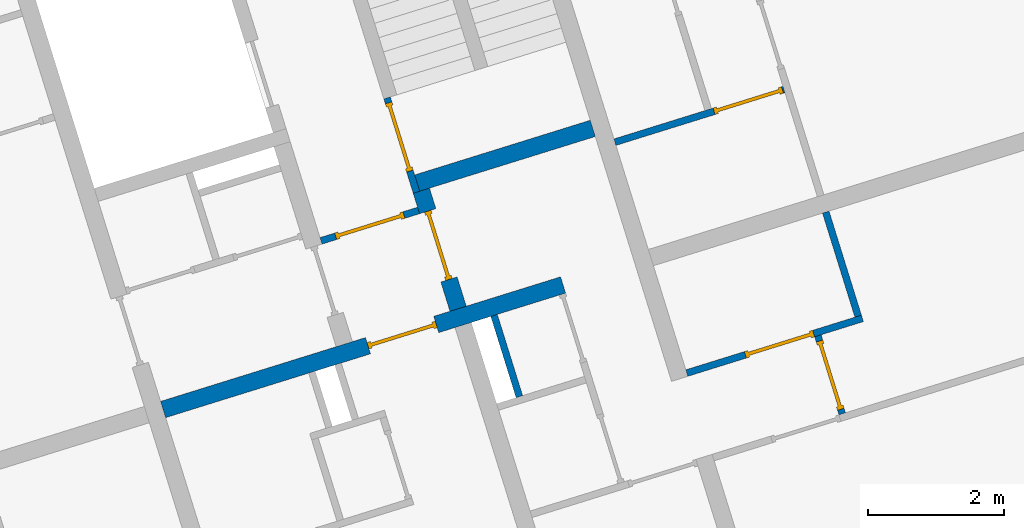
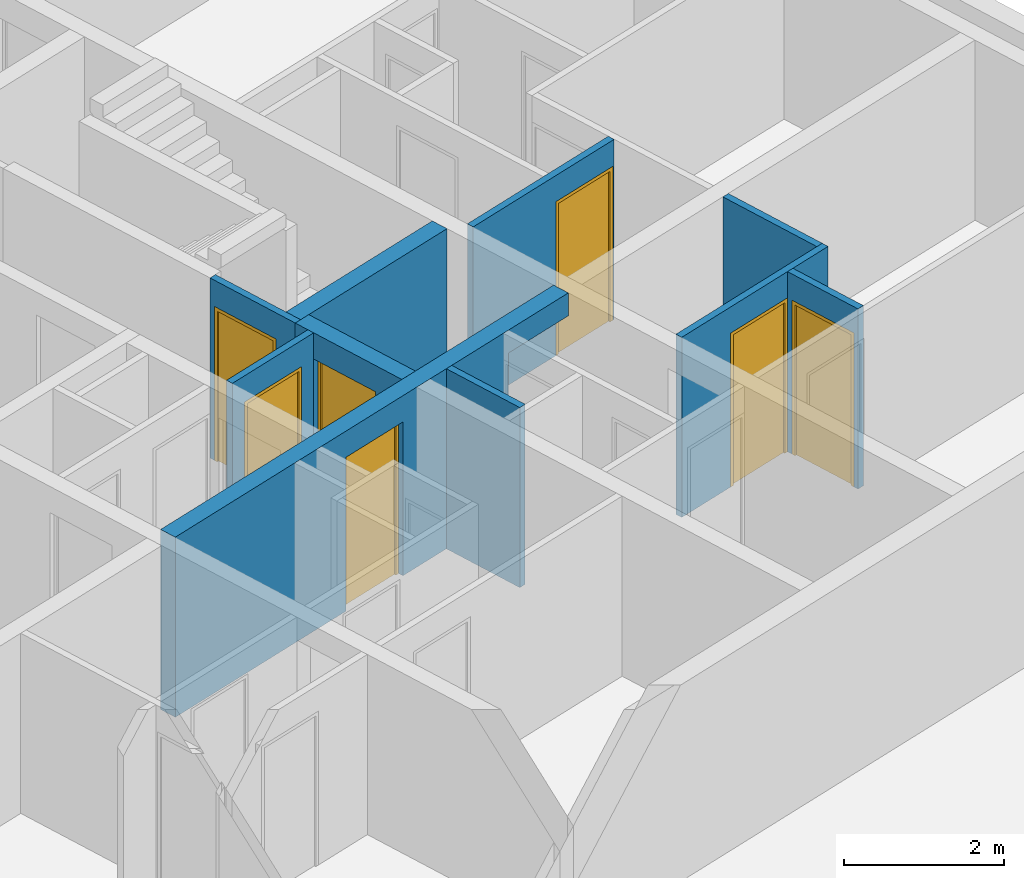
# One storey, part 3 of 9: 10 walls, 7 doors, 9 openings.
"""IFC4 building model written with IfcOpenShell, lengths in metres."""

from ifc_helpers import new_model, entity, si_unit, converted_unit, direction, frame, origin, place, context, subcontext, project, spatial, indexed_curve, outline, extrude, polygons, source, transform, mapped, material, constituent, constituent_set, type_object, type_shapes, element, fill, save


model = new_model("IFC4")

# Units and contexts
model_context = context("Model", 3, precision=1e-05, world=origin(), true_north=direction((6.12323399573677e-17, 1.0)))
body_context = subcontext(model_context, "Body", "Model", "MODEL_VIEW")
ifc_project = project(units=[si_unit("LENGTHUNIT", "METRE"), si_unit("AREAUNIT", "SQUARE_METRE"), si_unit("VOLUMEUNIT", "CUBIC_METRE"), converted_unit("PLANEANGLEUNIT", "DEGREE", entity("IfcPlaneAngleMeasure", 0.0174532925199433), si_unit("PLANEANGLEUNIT", "RADIAN"), dimensions=[0, 0, 0, 0, 0, 0, 0])], contexts=[model_context])

# Site, building, storey
site_placement = place(None, frame((13.1347999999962, 11.9886000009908, 0.0), z_axis=(0.0, 0.0, 1.0), x_axis=(0.954770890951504, 0.297342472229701, 0.0)))
site = spatial("IfcSite", under=ifc_project, at=site_placement, Name="Schiehaven", CompositionType="ELEMENT")
building_placement = place(site_placement, origin())
building = spatial("IfcBuilding", under=site, at=building_placement, Name="VORM huis", CompositionType="ELEMENT")
storey_placement = place(building_placement, frame((0.0, 0.0, 6.9)))
storey = spatial("IfcBuildingStorey", under=building, at=storey_placement, Name="02 tweede verdieping", CompositionType="ELEMENT", Elevation=6.9)

# Wall, openings, door
ifc_material_1 = material(Name="beton_gewapend_ihw", Category="Miscellaneous")
wall_type_1 = type_object("IfcWallType", Name="Basic Wall:28_WA_skelet_wand 250mm_gen", PredefinedType="STANDARD")
wall_1_placement = place(storey_placement, frame((19.8750000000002, 11.8999999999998, 0.0), z_axis=(0.0, 0.0, 1.0), x_axis=(-1.0, 0.0, 0.0)))
wall_1 = element("IfcWall", 1, at=wall_1_placement, inside=storey, type_object=wall_type_1, material=ifc_material_1, Name="Constructieve wand", ObjectType="Wand", PredefinedType="NOTDEFINED", context=body_context, shape_type="Tessellation", body=[
    polygons([(4.09999999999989, -0.124999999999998, 2.34999999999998), (4.09999999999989, -0.124999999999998, 1.08286712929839e-15), (7.24999999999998, -0.124999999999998, 1.08286712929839e-15), (7.24999999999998, -0.124999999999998, 2.75), (3.21810276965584e-15, -0.125, 2.75), (3.21810276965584e-15, -0.125, 2.4), (1.10000000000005, -0.125, 2.4), (1.10000000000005, -0.125, 1.08286712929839e-15), (3.0499999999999, -0.125, 1.08286712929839e-15), (3.0499999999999, -0.125, 2.34999999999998), (7.24999999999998, 0.125000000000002, 1.08286712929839e-15), (4.0999999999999, 0.125000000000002, 1.08286712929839e-15), (4.0999999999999, 0.125000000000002, 2.34999999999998), (3.0499999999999, 0.125, 2.34999999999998), (3.0499999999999, 0.125, 1.08286712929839e-15), (1.10000000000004, 0.125, 1.08286712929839e-15), (1.10000000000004, 0.125, 2.4), (4.15076800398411e-15, 0.125, 2.4), (8.48223652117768e-15, 0.125, 2.75), (7.24999999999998, 0.125000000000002, 2.75)], [[[1, 2, 3, 4, 5, 6, 7, 8, 9, 10]], [[11, 12, 13, 14, 15, 16, 17, 18, 19, 20]], [[9, 8, 16, 15]], [[5, 4, 20, 19]], [[5, 19, 18, 6]], [[15, 14, 10, 9]], [[13, 12, 2, 1]], [[14, 13, 1, 10]], [[17, 7, 6, 18]], [[7, 17, 16, 8]], [[4, 3, 11, 20]], [[3, 2, 12, 11]]], closed=True),
])
opening_1_placement = place(wall_1_placement, origin())
element("IfcOpeningElement", 2, at=opening_1_placement, cuts=wall_1, Name="Constructieve wand", PredefinedType="OPENING", context=body_context, shape_type="SweptSolid", body=[
    extrude(outline(indexed_curve([(-1.2, -0.550000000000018), (1.2, -0.550000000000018), (1.2, 0.550000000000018), (-1.2, 0.550000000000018), (-1.2, -0.550000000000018)], self_intersect=False)), frame((0.55000000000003, -0.125, 1.2), z_axis=(0.0, 1.0, 0.0), x_axis=(0.0, 0.0, -1.0)), (0.0, 0.0, 1.0), 0.249999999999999),
])
opening_2_placement = place(wall_1_placement, frame((4.09999999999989, 0.124999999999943, 0.0)))
opening_2 = element("IfcOpeningElement", 3, at=opening_2_placement, cuts=wall_1, Name="Woningtoegangsdeur", PredefinedType="OPENING", context=body_context, shape_type="SweptSolid", body=[
    extrude(outline(indexed_curve([(2.34999999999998, 1.05), (0.0, 1.05), (0.0, 1.08286712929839e-15), (2.34999999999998, 1.08286712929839e-15), (2.34999999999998, 1.05)], self_intersect=False)), frame((0.0, 0.0, 0.0), z_axis=(0.0, -1.0, 0.0), x_axis=(0.0, 0.0, 1.0)), (0.0, 0.0, 1.0), 0.25),
])
ifc_material_2 = material(Name="PD_a_binnenwandopeningen", Category="Miscellaneous")
ifc_constituent_1 = constituent(ifc_material_2, Name="PD_a_binnenwandopeningen", Category="Miscellaneous")
ifc_material_3 = material(Name="metaal_aluminium_ntb", Category="Miscellaneous")
ifc_constituent_2 = constituent(ifc_material_3, Name="metaal_aluminium_ntb", Category="Miscellaneous")
ifc_constituent_set_1 = constituent_set(constituents=[ifc_constituent_1, ifc_constituent_2])
door_type_1 = type_object("IfcDoorType", Name="32_DO_binnendeur enkel:woningtoegangsdeur", OperationType="REVOLVING", PredefinedType="DOOR")
shared_shape_1 = source(origin(), body_context, "Body", "SweptSolid", [
    extrude(outline(indexed_curve([(-1.16249999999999, -0.525000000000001), (1.18749999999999, -0.525), (1.18749999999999, 0.525000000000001), (-1.16249999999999, 0.525000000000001), (-1.16249999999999, 0.475), (1.13749999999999, 0.475), (1.13749999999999, -0.475), (-1.16249999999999, -0.475), (-1.16249999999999, -0.525000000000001)], self_intersect=False)), frame((0.525000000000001, 0.0749999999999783, 1.16249999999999), z_axis=(0.0, 1.0, 0.0), x_axis=(0.0, 0.0, 1.0)), (0.0, 0.0, 1.0), 0.1),
    extrude(outline(indexed_curve([(-0.025, -0.475), (0.025, -0.475), (0.025, 0.475), (-0.025, 0.475), (-0.025, -0.475)], self_intersect=False)), frame((0.525000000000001, 0.12499999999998, 0.0), z_axis=(0.0, 0.0, 1.0), x_axis=(0.0, 1.0, 0.0)), (0.0, 0.0, 1.0), 2.29999999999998),
])
door_1_placement = place(opening_2_placement, frame((0.0, 0.0, 0.0), z_axis=(0.0, 0.0, 1.0), x_axis=(-1.0, 0.0, 0.0)))
door_1 = element("IfcDoor", 4, at=door_1_placement, inside=storey, type_object=door_type_1, material=ifc_constituent_set_1, Name="Woningtoegangsdeur", ObjectType="Deur", OperationType="REVOLVING", OverallHeight=2.34999999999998, OverallWidth=1.05, PredefinedType="DOOR", context=body_context, shape_type="MappedRepresentation", body=[
    mapped(shared_shape_1, transform((0.0, 0.0, 0.0), scale=1.0)),
])
fill(opening_2, door_1)

# Wall, opening, door
ifc_material_4 = material(Name="ntb_ntb_ntb", Category="Miscellaneous")
wall_type_2 = type_object("IfcWallType", Name="Basic Wall:22_WA_afbouw_binnenwand 250mm_gen", PredefinedType="STANDARD")
wall_2_placement = place(storey_placement, frame((17.2000000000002, 13.8399999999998, 0.0), z_axis=(0.0, 0.0, 1.0), x_axis=(0.0, -1.0, 0.0)))
wall_2 = element("IfcWall", 5, at=wall_2_placement, inside=storey, type_object=wall_type_2, material=ifc_material_4, Name="Binnenwand", ObjectType="Wand", PredefinedType="NOTDEFINED", context=body_context, shape_type="Tessellation", body=[
    polygons([(-4.33146851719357e-15, -0.124999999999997, 1.08286712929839e-15), (0.215000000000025, -0.125, 0.0), (0.315000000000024, -0.124999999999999, 1.08286712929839e-15), (0.315000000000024, -0.124999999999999, 2.34999999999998), (1.36500000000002, -0.125, 2.34999999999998), (1.36500000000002, -0.125, 1.08286712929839e-15), (1.81499999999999, -0.125, 1.08286712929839e-15), (1.81499999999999, -0.125, 2.75), (0.315000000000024, -0.124999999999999, 2.75), (0.215000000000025, -0.125, 2.75), (-4.33146851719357e-15, -0.124999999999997, 2.75), (0.315000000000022, 0.125000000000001, 2.34999999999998), (0.315000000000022, 0.125000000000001, 1.08286712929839e-15), (0.0, 0.125, 1.08286712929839e-15), (0.0, 0.125, 2.75), (1.81499999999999, 0.124999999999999, 2.75), (1.81499999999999, 0.124999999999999, 1.08286712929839e-15), (1.36500000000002, 0.124999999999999, 1.08286712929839e-15), (1.36500000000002, 0.124999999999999, 2.34999999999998), (0.0, -0.0250000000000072, 0.0), (0.0, -0.0250000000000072, 2.75)], [[[1, 2, 3, 4, 5, 6, 7, 8, 9, 10, 11]], [[12, 13, 14, 15, 16, 17, 18, 19]], [[14, 13, 3, 2, 1, 20]], [[8, 7, 17, 16]], [[11, 10, 9, 8, 16, 15, 21]], [[6, 5, 19, 18]], [[4, 3, 13, 12]], [[5, 4, 12, 19]], [[1, 11, 21, 15, 14, 20]], [[18, 17, 7, 6]]], closed=True),
])
opening_3_placement = place(wall_2_placement, frame((1.36500000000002, 0.124999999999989, 0.0)))
opening_3 = element("IfcOpeningElement", 6, at=opening_3_placement, cuts=wall_2, Name="Woningtoegangsdeur", PredefinedType="OPENING", context=body_context, shape_type="SweptSolid", body=[
    extrude(outline(indexed_curve([(2.34999999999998, 1.35358391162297e-15), (2.34999999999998, 1.05), (0.0, 1.05), (0.0, 1.35358391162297e-15), (2.34999999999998, 1.35358391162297e-15)], self_intersect=False)), frame((0.0, 0.0, 0.0), z_axis=(0.0, -1.0, 0.0), x_axis=(0.0, 0.0, 1.0)), (0.0, 0.0, 1.0), 0.25),
])
ifc_constituent_3 = constituent(ifc_material_2, Name="PD_a_binnenwandopeningen", Category="Miscellaneous")
ifc_constituent_4 = constituent(ifc_material_3, Name="metaal_aluminium_ntb", Category="Miscellaneous")
ifc_constituent_set_2 = constituent_set(constituents=[ifc_constituent_3, ifc_constituent_4])
shared_shape_2 = source(origin(), body_context, "Body", "SweptSolid", [
    extrude(outline(indexed_curve([(0.475, -1.16249999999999), (0.525000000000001, -1.16249999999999), (0.525000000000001, 1.18749999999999), (-0.525000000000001, 1.18749999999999), (-0.525000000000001, -1.16249999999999), (-0.475, -1.16249999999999), (-0.475, 1.13749999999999), (0.475, 1.13749999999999), (0.475, -1.16249999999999)], self_intersect=False)), frame((0.525000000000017, 0.174999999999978, 1.16249999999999), z_axis=(0.0, -1.0, 0.0), x_axis=(1.0, 0.0, 0.0)), (0.0, 0.0, 1.0), 0.1),
    extrude(outline(indexed_curve([(-0.475, -0.025), (0.475, -0.025), (0.475, 0.025), (-0.475, 0.025), (-0.475, -0.025)], self_intersect=False)), frame((0.525000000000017, 0.12499999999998, 0.0)), (0.0, 0.0, 1.0), 2.29999999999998),
])
door_2_placement = place(opening_3_placement, frame((0.0, 0.0, 0.0), z_axis=(0.0, 0.0, 1.0), x_axis=(-1.0, 0.0, 0.0)))
door_2 = element("IfcDoor", 7, at=door_2_placement, inside=storey, type_object=door_type_1, material=ifc_constituent_set_2, Name="Woningtoegangsdeur", ObjectType="Deur", OperationType="REVOLVING", OverallHeight=2.34999999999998, OverallWidth=1.05, PredefinedType="DOOR", context=body_context, shape_type="MappedRepresentation", body=[
    mapped(shared_shape_2, transform((0.0, 0.0, 0.0), scale=1.0)),
])
fill(opening_3, door_2)

# Wall
wall_3_placement = place(storey_placement, frame((19.8750000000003, 13.9649999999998, 0.0), z_axis=(0.0, 0.0, 1.0), x_axis=(-1.0, 0.0, 0.0)))
element("IfcWall", 8, at=wall_3_placement, inside=storey, type_object=wall_type_2, material=ifc_material_4, Name="Binnenwand", ObjectType="Wand", PredefinedType="NOTDEFINED", context=body_context, shape_type="SweptSolid", body=[
    extrude(outline(indexed_curve([(2.70000000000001, 0.124999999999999), (2.34490905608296e-15, 0.125), (1.98655946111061e-15, -0.125), (2.70000000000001, -0.125), (2.70000000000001, 0.124999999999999)], self_intersect=False)), origin(), (0.0, 0.0, 1.0), 2.75),
])

# Wall, opening, door
wall_type_3 = type_object("IfcWallType", Name="Basic Wall:22_WA_afbouw_binnenwand 100mm_gen", PredefinedType="STANDARD")
wall_4_placement = place(storey_placement, frame((17.1250000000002, 13.8399999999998, 0.0), z_axis=(0.0, 0.0, 1.0), x_axis=(0.0, 1.0, 0.0)))
wall_4 = element("IfcWall", 9, at=wall_4_placement, inside=storey, type_object=wall_type_3, material=ifc_material_4, Name="Binnenwand", ObjectType="Wand", PredefinedType="NOTDEFINED", context=body_context, shape_type="Tessellation", body=[
    polygons([(1.44999999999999, -0.0499999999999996, 1.08286712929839e-15), (1.44999999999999, -0.0499999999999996, 2.75), (0.249999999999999, -0.0500000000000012, 2.75), (2.16573425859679e-15, -0.0500000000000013, 2.75), (2.16573425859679e-15, -0.0500000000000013, 1.08286712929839e-15), (0.249999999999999, -0.0500000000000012, 0.0), (0.324999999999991, -0.0499999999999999, 1.08286712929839e-15), (0.324999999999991, -0.0499999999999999, 2.34999999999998), (1.37499999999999, -0.050000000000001, 2.34999999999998), (1.37499999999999, -0.050000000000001, 1.08286712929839e-15), (1.44999999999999, 0.0500000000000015, 2.75), (1.44999999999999, 0.0500000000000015, 1.08286712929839e-15), (1.37499999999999, 0.0500000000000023, 1.08286712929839e-15), (1.37499999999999, 0.0500000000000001, 2.34999999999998), (0.324999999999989, 0.0500000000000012, 2.34999999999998), (0.324999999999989, 0.0500000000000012, 1.08286712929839e-15), (0.0, 0.050000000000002, 1.08286712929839e-15), (0.0, 0.050000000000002, 2.75)], [[[1, 2, 3, 4, 5, 6, 7, 8, 9, 10]], [[11, 12, 13, 14, 15, 16, 17, 18]], [[5, 17, 16, 7, 6]], [[2, 1, 12, 11]], [[4, 3, 2, 11, 18]], [[15, 8, 7, 16]], [[9, 14, 13, 10]], [[8, 15, 14, 9]], [[5, 4, 18, 17]], [[12, 1, 10, 13]]], closed=True),
])
opening_4_placement = place(wall_4_placement, frame((1.37499999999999, 0.0499999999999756, 0.0)))
opening_4 = element("IfcOpeningElement", 10, at=opening_4_placement, cuts=wall_4, Name="Vluchtdeur", PredefinedType="OPENING", context=body_context, shape_type="SweptSolid", body=[
    extrude(outline(indexed_curve([(2.34999999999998, 1.05), (0.0, 1.05), (0.0, 1.35358391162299e-15), (2.34999999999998, 1.35358391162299e-15), (2.34999999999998, 1.05)], self_intersect=False)), frame((0.0, 0.0, 0.0), z_axis=(0.0, -1.0, 0.0), x_axis=(0.0, 0.0, 1.0)), (0.0, 0.0, 1.0), 0.1),
])
ifc_constituent_5 = constituent(ifc_material_2, Name="PD_a_binnenwandopeningen", Category="Miscellaneous")
ifc_constituent_6 = constituent(ifc_material_3, Name="metaal_aluminium_ntb", Category="Miscellaneous")
ifc_constituent_set_3 = constituent_set(constituents=[ifc_constituent_5, ifc_constituent_6])
door_type_2 = type_object("IfcDoorType", Name="32_DO_binnendeur enkel:binnendeur zelfsluitend 30min", OperationType="NOTDEFINED", PredefinedType="DOOR")
shared_shape_3 = source(origin(), body_context, "Body", "SweptSolid", [
    extrude(outline(indexed_curve([(-1.16249999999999, -0.525000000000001), (1.18749999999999, -0.525), (1.18749999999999, 0.525), (-1.16249999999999, 0.525), (-1.16249999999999, 0.475), (1.13749999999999, 0.475), (1.13749999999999, -0.475), (-1.16249999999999, -0.475), (-1.16249999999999, -0.525000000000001)], self_intersect=False)), frame((0.525000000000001, 0.0, 1.16249999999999), z_axis=(0.0, 1.0, 0.0), x_axis=(0.0, 0.0, 1.0)), (0.0, 0.0, 1.0), 0.1),
    extrude(outline(indexed_curve([(-0.025, -0.475), (0.025, -0.475), (0.025, 0.475), (-0.025, 0.475), (-0.025, -0.475)], self_intersect=False)), frame((0.525000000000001, 0.0499999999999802, 0.0), z_axis=(0.0, 0.0, 1.0), x_axis=(0.0, 1.0, 0.0)), (0.0, 0.0, 1.0), 2.29999999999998),
])
type_shapes(door_type_2, [shared_shape_3])
door_3_placement = place(opening_4_placement, frame((0.0, 0.0, 0.0), z_axis=(0.0, 0.0, 1.0), x_axis=(-1.0, 0.0, 0.0)))
door_3 = element("IfcDoor", 11, at=door_3_placement, inside=storey, type_object=door_type_2, material=ifc_constituent_set_3, Name="Vluchtdeur", ObjectType="Deur", OperationType="NOTDEFINED", OverallHeight=2.34999999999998, OverallWidth=1.05, PredefinedType="DOOR", context=body_context, shape_type="MappedRepresentation", body=[
    mapped(shared_shape_3, transform((0.0, 0.0, 0.0), scale=1.0)),
])
fill(opening_4, door_3)

wall_5_placement = place(storey_placement, frame((17.0750000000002, 13.5749999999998, 0.0), z_axis=(0.0, 0.0, 1.0), x_axis=(-1.0, 0.0, 0.0)))
wall_5 = element("IfcWall", 12, at=wall_5_placement, inside=storey, type_object=wall_type_3, material=ifc_material_4, Name="Binnenwand", ObjectType="Wand", PredefinedType="NOTDEFINED", context=body_context, shape_type="Tessellation", body=[
    polygons([(1.50000000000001, -0.0499999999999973, 2.75), (-5.48799231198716e-16, -0.0499999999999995, 2.75), (-5.48799231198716e-16, -0.0499999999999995, 1.08286712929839e-15), (0.225, -0.0499999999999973, 1.08286712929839e-15), (0.225000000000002, -0.0500000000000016, 2.34999999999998), (1.275, -0.0499999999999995, 2.34999999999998), (1.275, -0.0499999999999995, 1.08286712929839e-15), (1.50000000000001, -0.0499999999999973, 1.08286712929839e-15), (-4.9311163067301e-16, 0.0500000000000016, 2.75), (1.5, 0.0499999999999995, 2.75), (1.5, 0.0499999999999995, 2.34999999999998), (1.5, 0.0499999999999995, 1.08286712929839e-15), (1.275, 0.0499999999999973, 1.08286712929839e-15), (1.275, 0.0499999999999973, 2.34999999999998), (0.225, 0.0499999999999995, 2.34999999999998), (0.225, 0.0499999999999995, 1.08286712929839e-15), (-4.9311163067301e-16, 0.0500000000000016, 1.08286712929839e-15), (-4.93111630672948e-16, 0.0499999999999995, 2.34999999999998)], [[[1, 2, 3, 4, 5, 6, 7, 8]], [[9, 10, 11, 12, 13, 14, 15, 16, 17, 18]], [[3, 17, 16, 4]], [[2, 1, 10, 9]], [[15, 5, 4, 16]], [[5, 15, 14, 6]], [[6, 14, 13, 7]], [[3, 2, 9, 18, 17]], [[1, 8, 12, 11, 10]], [[12, 8, 7, 13]]], closed=True),
])
opening_5_placement = place(wall_5_placement, frame((1.275, 0.0499999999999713, 0.0)))
opening_5 = element("IfcOpeningElement", 13, at=opening_5_placement, cuts=wall_5, Name="Vluchtdeur", PredefinedType="OPENING", context=body_context, shape_type="SweptSolid", body=[
    extrude(outline(indexed_curve([(2.34999999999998, 1.35358391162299e-15), (2.34999999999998, 1.05), (0.0, 1.05), (0.0, 1.35358391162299e-15), (2.34999999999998, 1.35358391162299e-15)], self_intersect=False)), frame((0.0, 0.0, 0.0), z_axis=(0.0, -1.0, 0.0), x_axis=(0.0, 0.0, 1.0)), (0.0, 0.0, 1.0), 0.1),
])
ifc_constituent_7 = constituent(ifc_material_2, Name="PD_a_binnenwandopeningen", Category="Miscellaneous")
ifc_constituent_8 = constituent(ifc_material_3, Name="metaal_aluminium_ntb", Category="Miscellaneous")
ifc_constituent_set_4 = constituent_set(constituents=[ifc_constituent_7, ifc_constituent_8])
shared_shape_4 = source(origin(), body_context, "Body", "SweptSolid", [
    extrude(outline(indexed_curve([(0.475, -1.16249999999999), (0.525, -1.16249999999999), (0.525, 1.18749999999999), (-0.525, 1.18749999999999), (-0.525, -1.16249999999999), (-0.475, -1.16249999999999), (-0.475, 1.13749999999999), (0.475, 1.13749999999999), (0.475, -1.16249999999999)], self_intersect=False)), frame((0.525000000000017, 0.100000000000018, 1.16249999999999), z_axis=(0.0, -1.0, 0.0), x_axis=(1.0, 0.0, 0.0)), (0.0, 0.0, 1.0), 0.1),
    extrude(outline(indexed_curve([(-0.475, -0.025), (0.475, -0.025), (0.475, 0.025), (-0.475, 0.025), (-0.475, -0.025)], self_intersect=False)), frame((0.525000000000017, 0.0499999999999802, 0.0)), (0.0, 0.0, 1.0), 2.29999999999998),
])
door_4_placement = place(opening_5_placement, frame((0.0, 0.0, 0.0), z_axis=(0.0, 0.0, 1.0), x_axis=(-1.0, 0.0, 0.0)))
door_4 = element("IfcDoor", 14, at=door_4_placement, inside=storey, type_object=door_type_2, material=ifc_constituent_set_4, Name="Vluchtdeur", ObjectType="Deur", OperationType="NOTDEFINED", OverallHeight=2.34999999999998, OverallWidth=1.05, PredefinedType="DOOR", context=body_context, shape_type="MappedRepresentation", body=[
    mapped(shared_shape_4, transform((0.0, 0.0, 0.0), scale=1.0)),
])
fill(opening_5, door_4)

wall_6_placement = place(storey_placement, frame((22.8250000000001, 10.1249999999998, 0.0), z_axis=(0.0, 0.0, 1.0), x_axis=(-1.0, 0.0, 0.0)))
wall_6 = element("IfcWall", 15, at=wall_6_placement, inside=storey, type_object=wall_type_3, material=ifc_material_4, Name="Binnenwand", ObjectType="Wand", PredefinedType="NOTDEFINED", context=body_context, shape_type="Tessellation", body=[
    polygons([(4.28724628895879e-16, -0.0500000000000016, 1.08286712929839e-15), (0.0999999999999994, -0.0500000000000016, 0.0), (0.750000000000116, -0.0500000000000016, 1.08286712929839e-15), (0.750000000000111, -0.0500000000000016, 2.34999999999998), (1.80000000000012, -0.0500000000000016, 2.34999999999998), (1.80000000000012, -0.0500000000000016, 1.08286712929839e-15), (2.69999999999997, -0.0500000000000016, 1.08286712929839e-15), (2.69999999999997, -0.0500000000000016, 2.75), (0.0999999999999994, -0.0500000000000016, 2.75), (4.28724628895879e-16, -0.0500000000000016, 2.75), (0.750000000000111, 0.0499999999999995, 2.34999999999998), (0.750000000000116, 0.0499999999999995, 1.08286712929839e-15), (0.650000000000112, 0.0499999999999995, 0.0), (1.26523112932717e-16, 0.0499999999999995, 1.08286712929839e-15), (1.26523112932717e-16, 0.0499999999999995, 2.75), (0.650000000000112, 0.0499999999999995, 2.75), (0.750000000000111, 0.0499999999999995, 2.75), (2.69999999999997, 0.0499999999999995, 2.75), (2.69999999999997, 0.0499999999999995, 1.08286712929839e-15), (1.80000000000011, 0.0499999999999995, 1.08286712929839e-15), (1.80000000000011, 0.0499999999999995, 2.34999999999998)], [[[1, 2, 3, 4, 5, 6, 7, 8, 9, 10]], [[11, 12, 13, 14, 15, 16, 17, 18, 19, 20, 21]], [[14, 13, 12, 3, 2, 1]], [[8, 7, 19, 18]], [[10, 9, 8, 18, 17, 16, 15]], [[6, 5, 21, 20]], [[4, 3, 12, 11]], [[5, 4, 11, 21]], [[1, 10, 15, 14]], [[20, 19, 7, 6]]], closed=True),
])
opening_6_placement = place(wall_6_placement, frame((0.750000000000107, -0.0500000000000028, 0.0)))
opening_6 = element("IfcOpeningElement", 16, at=opening_6_placement, cuts=wall_6, Name="Binnendeur", PredefinedType="OPENING", context=body_context, shape_type="SweptSolid", body=[
    extrude(outline(indexed_curve([(2.34999999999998, 1.05), (0.0, 1.05), (0.0, -3.50253438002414e-30), (2.34999999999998, -3.50253438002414e-30), (2.34999999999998, 1.05)], self_intersect=False)), frame((0.0, 0.0, 0.0), z_axis=(0.0, 1.0, 0.0), x_axis=(0.0, 0.0, 1.0)), (0.0, 0.0, 1.0), 0.1),
])
ifc_constituent_9 = constituent(ifc_material_2, Name="PD_a_binnenwandopeningen", Category="Miscellaneous")
ifc_constituent_10 = constituent(ifc_material_3, Name="metaal_aluminium_ntb", Category="Miscellaneous")
ifc_constituent_set_5 = constituent_set(constituents=[ifc_constituent_9, ifc_constituent_10])
door_type_3 = type_object("IfcDoorType", Name="32_DO_binnendeur enkel:binnendeur", OperationType="REVOLVING", PredefinedType="DOOR")
shared_shape_5 = source(origin(), body_context, "Body", "SweptSolid", [
    extrude(outline(indexed_curve([(-1.16249999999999, -0.525000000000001), (1.18749999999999, -0.525), (1.18749999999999, 0.525), (-1.16249999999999, 0.525), (-1.16249999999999, 0.475), (1.13749999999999, 0.475), (1.13749999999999, -0.475), (-1.16249999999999, -0.475), (-1.16249999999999, -0.525000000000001)], self_intersect=False)), frame((0.525000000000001, 0.0, 1.16249999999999), z_axis=(0.0, 1.0, 0.0), x_axis=(0.0, 0.0, 1.0)), (0.0, 0.0, 1.0), 0.1),
    extrude(outline(indexed_curve([(-0.025, -0.475), (0.025, -0.475), (0.025, 0.475), (-0.025, 0.475), (-0.025, -0.475)], self_intersect=False)), frame((0.525000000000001, 0.0499999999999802, 0.0), z_axis=(0.0, 0.0, 1.0), x_axis=(0.0, 1.0, 0.0)), (0.0, 0.0, 1.0), 2.29999999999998),
])
type_shapes(door_type_3, [shared_shape_5])
door_5_placement = place(opening_6_placement, origin())
door_5 = element("IfcDoor", 17, at=door_5_placement, inside=storey, type_object=door_type_3, material=ifc_constituent_set_5, Name="Binnendeur", ObjectType="Deur", OperationType="REVOLVING", OverallHeight=2.34999999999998, OverallWidth=1.05, PredefinedType="DOOR", context=body_context, shape_type="MappedRepresentation", body=[
    mapped(shared_shape_5, transform((0.0, 0.0, 0.0), scale=1.0)),
])
fill(opening_6, door_5)

# Wall
wall_7_placement = place(storey_placement, frame((22.7750000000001, 10.1749999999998, 0.0), z_axis=(0.0, 0.0, 1.0), x_axis=(0.0, 1.0, 0.0)))
element("IfcWall", 18, at=wall_7_placement, inside=storey, type_object=wall_type_3, material=ifc_material_4, Name="Binnenwand", ObjectType="Wand", PredefinedType="NOTDEFINED", context=body_context, shape_type="SweptSolid", body=[
    extrude(outline(indexed_curve([(1.6000000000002, 0.0500000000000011), (-1.18119716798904e-16, 0.0500000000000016), (1.18119716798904e-16, -0.0500000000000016), (1.6000000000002, -0.0500000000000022), (1.6000000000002, 0.0500000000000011)], self_intersect=False)), origin(), (0.0, 0.0, 1.0), 2.75),
])

# Wall, openings, door
wall_8_placement = place(storey_placement, frame((22.125, 10.0749999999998, 0.0), z_axis=(0.0, 0.0, 1.0), x_axis=(0.0, -1.0, 0.0)))
wall_8 = element("IfcWall", 19, at=wall_8_placement, inside=storey, type_object=wall_type_3, material=ifc_material_4, Name="Binnenwand", ObjectType="Wand", PredefinedType="NOTDEFINED", context=body_context, shape_type="Tessellation", body=[
    polygons([(1.19999999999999, -0.0499999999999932, 2.75), (0.0, -0.0499999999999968, 2.75), (0.0, -0.0499999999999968, 2.34999999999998), (0.0, -0.0499999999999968, 1.08286712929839e-15), (0.0799999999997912, -0.049999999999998, 1.08286712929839e-15), (0.0799999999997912, -0.0499999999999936, 2.34999999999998), (1.12999999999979, -0.0499999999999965, 2.34999999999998), (1.12999999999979, -0.0499999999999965, 1.08286712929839e-15), (1.19999999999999, -0.0499999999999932, 1.08286712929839e-15), (1.19999999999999, -0.0499999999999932, 2.34999999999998), (2.16573425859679e-15, 0.0500000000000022, 2.75), (1.19999999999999, 0.0500000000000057, 2.75), (1.19999999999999, 0.0500000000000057, 1.08286712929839e-15), (1.12999999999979, 0.0500000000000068, 1.08286712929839e-15), (1.12999999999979, 0.0500000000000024, 2.34999999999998), (0.0799999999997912, 0.0500000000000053, 2.34999999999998), (0.0799999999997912, 0.0500000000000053, 1.08286712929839e-15), (2.16573425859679e-15, 0.0500000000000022, 1.08286712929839e-15)], [[[1, 2, 3, 4, 5, 6, 7, 8, 9, 10]], [[11, 12, 13, 14, 15, 16, 17, 18]], [[4, 18, 17, 5]], [[2, 1, 12, 11]], [[1, 10, 9, 13, 12]], [[4, 3, 2, 11, 18]], [[7, 15, 14, 8]], [[15, 7, 6, 16]], [[16, 6, 5, 17]], [[13, 9, 8, 14]]], closed=True),
])
opening_7_placement = place(wall_8_placement, frame((1.12999999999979, 0.0500000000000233, 0.0)))
opening_7 = element("IfcOpeningElement", 20, at=opening_7_placement, cuts=wall_8, Name="Binnendeur", PredefinedType="OPENING", context=body_context, shape_type="SweptSolid", body=[
    extrude(outline(indexed_curve([(2.34999999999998, 1.35358391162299e-15), (2.34999999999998, 1.05), (0.0, 1.05), (0.0, 1.35358391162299e-15), (2.34999999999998, 1.35358391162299e-15)], self_intersect=False)), frame((0.0, 0.0, 0.0), z_axis=(0.0, -1.0, 0.0), x_axis=(0.0, 0.0, 1.0)), (0.0, 0.0, 1.0), 0.1),
])
opening_8_placement = place(wall_8_placement, frame((10.0749999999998, -22.125, 0.0), z_axis=(0.0, 0.0, 1.0), x_axis=(0.0, 1.0, 0.0)))
element("IfcOpeningElement", 21, at=opening_8_placement, cuts=wall_8, Name="Binnendeur", PredefinedType="OPENING", context=body_context, shape_type="SweptSolid", body=[
    extrude(outline(indexed_curve([(-1.17499999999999, -0.525000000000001), (1.17499999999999, -0.524999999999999), (1.17499999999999, 0.525), (-1.17499999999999, 0.525), (-1.17499999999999, -0.525000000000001)], self_intersect=False)), frame((20.651, 9.46999999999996, 1.17499999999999), z_axis=(1.0, 0.0, 0.0), x_axis=(0.0, 0.0, -1.0)), (0.0, 0.0, 1.0), 3.048),
])
ifc_constituent_11 = constituent(ifc_material_2, Name="PD_a_binnenwandopeningen", Category="Miscellaneous")
ifc_constituent_12 = constituent(ifc_material_3, Name="metaal_aluminium_ntb", Category="Miscellaneous")
ifc_constituent_set_6 = constituent_set(constituents=[ifc_constituent_11, ifc_constituent_12])
shared_shape_6 = source(origin(), body_context, "Body", "SweptSolid", [
    extrude(outline(indexed_curve([(0.475, -1.16249999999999), (0.525, -1.16249999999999), (0.525, 1.18749999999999), (-0.525, 1.18749999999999), (-0.525, -1.16249999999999), (-0.475, -1.16249999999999), (-0.475, 1.13749999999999), (0.475, 1.13749999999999), (0.475, -1.16249999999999)], self_intersect=False)), frame((0.525000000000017, 0.100000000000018, 1.16249999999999), z_axis=(0.0, -1.0, 0.0), x_axis=(1.0, 0.0, 0.0)), (0.0, 0.0, 1.0), 0.1),
    extrude(outline(indexed_curve([(-0.475, -0.025), (0.475, -0.025), (0.475, 0.025), (-0.475, 0.025), (-0.475, -0.025)], self_intersect=False)), frame((0.525000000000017, 0.0499999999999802, 0.0)), (0.0, 0.0, 1.0), 2.29999999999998),
])
door_6_placement = place(opening_7_placement, frame((0.0, 0.0, 0.0), z_axis=(0.0, 0.0, 1.0), x_axis=(-1.0, 0.0, 0.0)))
door_6 = element("IfcDoor", 22, at=door_6_placement, inside=storey, type_object=door_type_3, material=ifc_constituent_set_6, Name="Binnendeur", ObjectType="Deur", OperationType="REVOLVING", OverallHeight=2.34999999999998, OverallWidth=1.05, PredefinedType="DOOR", context=body_context, shape_type="MappedRepresentation", body=[
    mapped(shared_shape_6, transform((0.0, 0.0, 0.0), scale=1.0)),
])
fill(opening_7, door_6)

# Wall
wall_9_placement = place(storey_placement, frame((17.6750000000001, 11.7749999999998, 0.0), z_axis=(0.0, 0.0, 1.0), x_axis=(0.0, -1.0, 0.0)))
element("IfcWall", 23, at=wall_9_placement, inside=storey, type_object=wall_type_3, material=ifc_material_4, Name="Binnenwand", ObjectType="Wand", PredefinedType="NOTDEFINED", context=body_context, shape_type="SweptSolid", body=[
    extrude(outline(indexed_curve([(1.25000000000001, 0.0500000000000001), (7.54991624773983e-16, 0.0499999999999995), (-7.54991624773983e-16, -0.0499999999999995), (1.25000000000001, -0.0499999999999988), (1.25000000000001, 0.0500000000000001)], self_intersect=False)), origin(), (0.0, 0.0, 1.0), 2.75),
])

# Wall, opening, door
wall_10_placement = place(storey_placement, frame((22.7250000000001, 13.675, 0.0), z_axis=(0.0, 0.0, 1.0), x_axis=(-1.0, 0.0, 0.0)))
wall_10 = element("IfcWall", 24, at=wall_10_placement, inside=storey, type_object=wall_type_3, material=ifc_material_4, Name="Binnenwand", ObjectType="Wand", PredefinedType="NOTDEFINED", context=body_context, shape_type="Tessellation", body=[
    polygons([(1.075, -0.0499999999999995, 2.34999999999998), (1.075, -0.0499999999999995, 1.08286712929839e-15), (1.1, -0.0499999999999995, 0.0), (1.2, -0.0499999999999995, 0.0), (2.59999999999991, -0.0500000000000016, 1.08286712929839e-15), (2.59999999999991, -0.0500000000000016, 2.75), (1.2, -0.0499999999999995, 2.75), (1.1, -0.0499999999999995, 2.75), (1.50273447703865e-15, -0.0500000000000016, 2.75), (1.50273447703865e-15, -0.0500000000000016, 1.08286712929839e-15), (0.0250000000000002, -0.0500000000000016, 1.08286712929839e-15), (0.0250000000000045, -0.0500000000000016, 2.34999999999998), (2.59999999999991, 0.0500000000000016, 1.08286712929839e-15), (1.075, 0.0500000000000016, 1.08286712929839e-15), (1.075, 0.0500000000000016, 2.34999999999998), (0.0250000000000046, 0.0499999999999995, 2.34999999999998), (0.0250000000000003, 0.0499999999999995, 1.08286712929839e-15), (1.64958043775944e-15, 0.0499999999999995, 1.08286712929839e-15), (1.64958043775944e-15, 0.0499999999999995, 2.75), (2.59999999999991, 0.0500000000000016, 2.75)], [[[1, 2, 3, 4, 5, 6, 7, 8, 9, 10, 11, 12]], [[13, 14, 15, 16, 17, 18, 19, 20]], [[11, 10, 18, 17]], [[6, 5, 13, 20]], [[9, 8, 7, 6, 20, 19]], [[10, 9, 19, 18]], [[17, 16, 12, 11]], [[15, 14, 2, 1]], [[16, 15, 1, 12]], [[5, 4, 3, 2, 14, 13]]], closed=True),
])
opening_9_placement = place(wall_10_placement, frame((1.075, 0.050000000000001, 0.0)))
opening_9 = element("IfcOpeningElement", 25, at=opening_9_placement, cuts=wall_10, Name="Binnendeur", PredefinedType="OPENING", context=body_context, shape_type="SweptSolid", body=[
    extrude(outline(indexed_curve([(2.34999999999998, 1.05), (0.0, 1.05), (0.0, 2.27341277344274e-30), (2.34999999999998, 2.27341277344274e-30), (2.34999999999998, 1.05)], self_intersect=False)), frame((0.0, 0.0, 0.0), z_axis=(0.0, -1.0, 0.0), x_axis=(0.0, 0.0, 1.0)), (0.0, 0.0, 1.0), 0.1),
])
ifc_constituent_13 = constituent(ifc_material_2, Name="PD_a_binnenwandopeningen", Category="Miscellaneous")
ifc_constituent_14 = constituent(ifc_material_3, Name="metaal_aluminium_ntb", Category="Miscellaneous")
ifc_constituent_set_7 = constituent_set(constituents=[ifc_constituent_13, ifc_constituent_14])
door_7_placement = place(opening_9_placement, frame((0.0, 0.0, 0.0), z_axis=(0.0, 0.0, 1.0), x_axis=(-1.0, 0.0, 0.0)))
door_7 = element("IfcDoor", 26, at=door_7_placement, inside=storey, type_object=door_type_3, material=ifc_constituent_set_7, Name="Binnendeur", ObjectType="Deur", OperationType="REVOLVING", OverallHeight=2.34999999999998, OverallWidth=1.05, PredefinedType="DOOR", context=body_context, shape_type="MappedRepresentation", body=[
    mapped(shared_shape_5, transform((0.0, 0.0, 0.0), scale=1.0)),
])
fill(opening_9, door_7)

save(model, "model.ifc")
